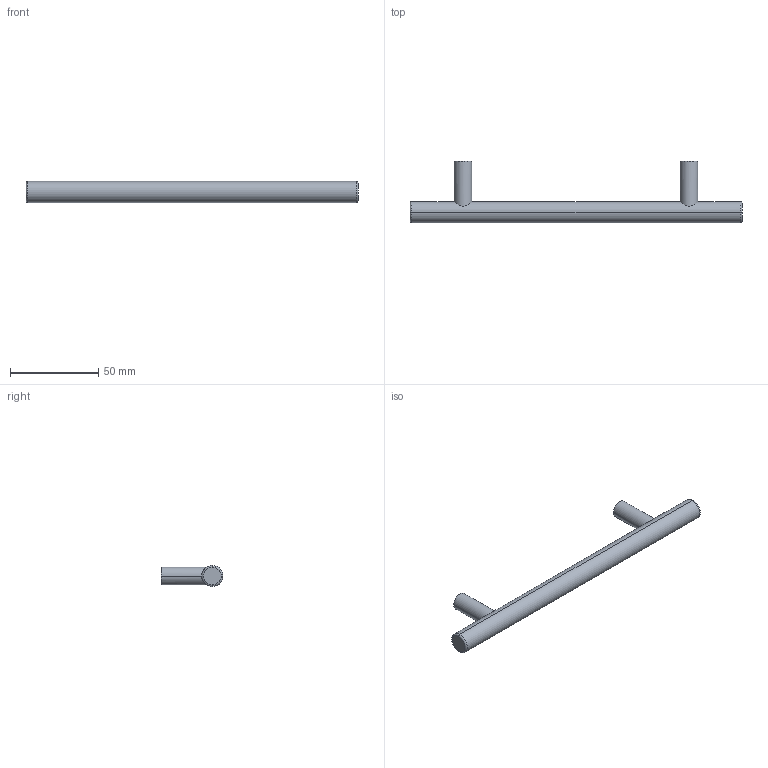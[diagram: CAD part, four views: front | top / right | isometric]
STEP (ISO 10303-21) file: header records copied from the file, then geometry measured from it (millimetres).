
FILE_DESCRIPTION( ( '' ), '1' );
FILE_NAME( 'C:/Documents and Settings/Sachin/Desktop/Sheet 10_1/stp/9070750.stp', '2013-10-22T12:29:45', ( '' ), ( '' ), ' ', ' ', ' ' );
FILE_SCHEMA( ( 'CONFIG_CONTROL_DESIGN' ) );
Length unit declared in the file: millimetre
Products named in the file (1): 1
Bounding box: 188 x 35 x 12 mm (x, y, z)
Volume: 24749.7 mm3; surface area: 8985.2 mm2
Topology: 1 solids, 1 shells, 20 faces, 44 edges, 30 vertices
Faces by surface type: cylinder 10, plane 6, torus 4
Entity records: 738 total; most frequent: CARTESIAN_POINT 229, DIRECTION 108, ORIENTED_EDGE 88, AXIS2_PLACEMENT_3D 49, EDGE_CURVE 44, VERTEX_POINT 30, CIRCLE 28, EDGE_LOOP 24
